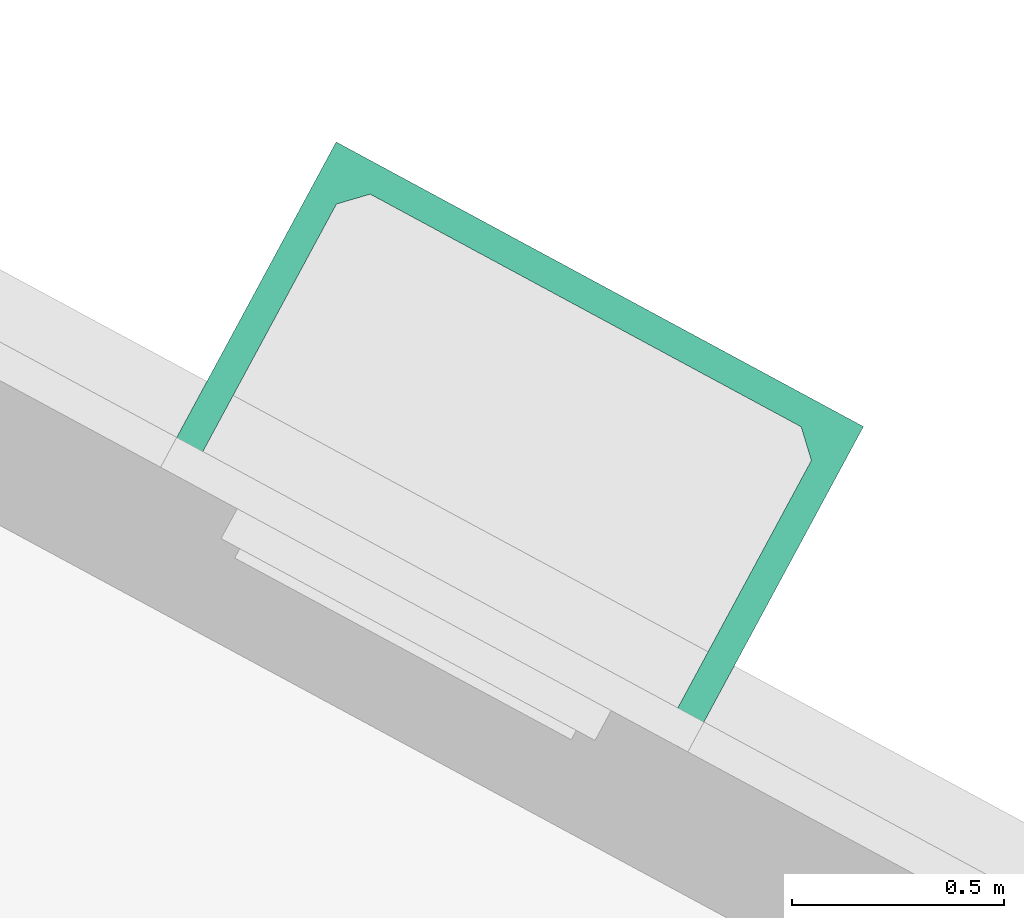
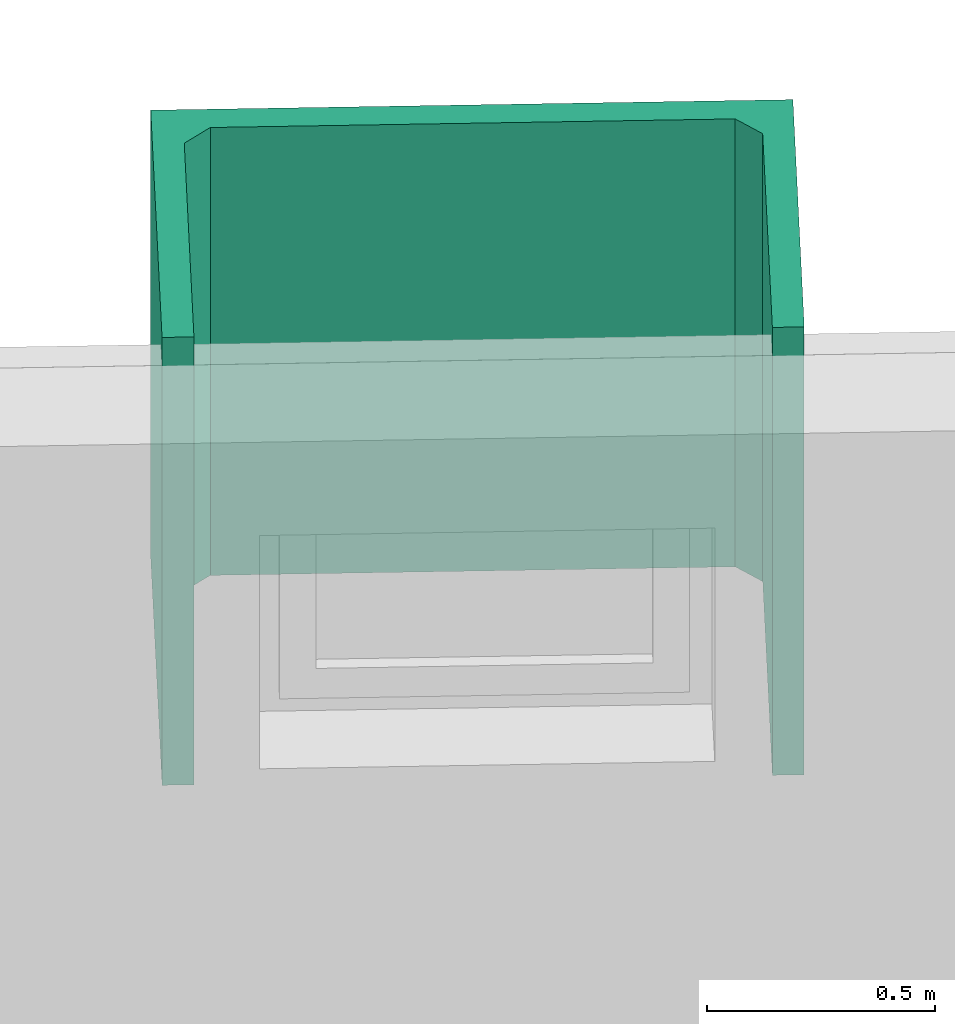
# One storey, part 8 of 8: 1 distribution chamber element.
"""IFC2X3 building model written with IfcOpenShell, lengths in metres."""

from ifc_helpers import new_model, entity, si_unit, converted_unit, derived_unit, money_unit, direction, frame, origin_with_axes, place, context, subcontext, project, spatial, polyline, outline, composite_profile, extrude, material, material_list, type_object, element, save


model = new_model("IFC2X3")

# Units and contexts
model_context = context("Model", 3, precision=1e-05, world=origin_with_axes(), true_north=direction((0.0, 1.0)))
body_context = subcontext(model_context, "Body", "Model", "MODEL_VIEW")
ifc_project = project(units=[si_unit("LENGTHUNIT", "METRE"), si_unit("AREAUNIT", "SQUARE_METRE"), si_unit("VOLUMEUNIT", "CUBIC_METRE"), converted_unit("PLANEANGLEUNIT", "DEGREE", entity("IfcPlaneAngleMeasure", 0.0174532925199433), si_unit("PLANEANGLEUNIT", "RADIAN"), dimensions=[0, 0, 0, 0, 0, 0, 0]), money_unit("EUR"), converted_unit("TIMEUNIT", "Year", entity("IfcTimeMeasure", 31556926.0), si_unit("TIMEUNIT", "SECOND"), dimensions=[0, 0, 1, 0, 0, 0, 0]), si_unit("MASSUNIT", "GRAM", prefix="KILO"), si_unit("THERMODYNAMICTEMPERATUREUNIT", "DEGREE_CELSIUS"), si_unit("LUMINOUSINTENSITYUNIT", "LUMEN"), si_unit("ENERGYUNIT", "JOULE", prefix="MEGA"), derived_unit("THERMALCONDUCTANCEUNIT", [(si_unit("POWERUNIT", "WATT"), 1), (si_unit("LENGTHUNIT", "METRE"), -1), (si_unit("THERMODYNAMICTEMPERATUREUNIT", "KELVIN"), -1)]), derived_unit("SPECIFICHEATCAPACITYUNIT", [(si_unit("ENERGYUNIT", "JOULE"), 1), (si_unit("MASSUNIT", "GRAM", prefix="KILO"), -1), (si_unit("THERMODYNAMICTEMPERATUREUNIT", "KELVIN"), -1)]), derived_unit("MASSDENSITYUNIT", [(si_unit("MASSUNIT", "GRAM", prefix="KILO"), 1), (si_unit("VOLUMEUNIT", "CUBIC_METRE"), -1)])], contexts=[model_context])

# Site, building, storey
site_placement = place(None, frame((-3.949935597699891, 1.740105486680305, 0.0), z_axis=(0.0, 0.0, 1.0), x_axis=(0.8799804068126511, -0.475009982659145, 0.0)))
site = spatial("IfcSite", under=ifc_project, at=site_placement, Name="Gelände", CompositionType="ELEMENT")
building_placement = place(site_placement, origin_with_axes())
building = spatial("IfcBuilding", under=site, at=building_placement, Name="Gebäude", CompositionType="ELEMENT")
storey_placement = place(building_placement, frame((0.0, 0.0, -2.98), z_axis=(0.0, 0.0, 1.0), x_axis=(1.0, 0.0, 0.0)))
storey = spatial("IfcBuildingStorey", under=building, at=storey_placement, Name="Kellergeschoss", CompositionType="ELEMENT", Elevation=-2.98)

# Distribution chamber element
ifc_material_1 = material(Name="_SIWH - Dämmung, hart Mineralwolle")
ifc_material_2 = material(Name="_SIWH - Beton, Stahlbeton Fertigteil")
ifc_material_list = material_list([ifc_material_1, ifc_material_1, ifc_material_2])
distribution_chamber_element_type = type_object("IfcDistributionChamberElementType", Name="_SIWH - Lichtschacht 1270x800 870 x 1410", PredefinedType="NOTDEFINED")
distribution_chamber_element_placement = place(storey_placement, frame((14.52247696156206, 19.20031485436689, 1.675), z_axis=(0.0, 0.0, 1.0), x_axis=(0.0, 1.0, 0.0)))
element("IfcDistributionChamberElement", 1, at=distribution_chamber_element_placement, inside=storey, type_object=distribution_chamber_element_type, material=ifc_material_list, Name="Stütze-004", context=body_context, shape_type="SweptSolid", body=[
    extrude(composite_profile([outline(polyline([(0.0, 1.41), (0.0, 1.34), (0.08000000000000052, 1.34), (0.08000000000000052, 1.41), (0.0, 1.41)])), outline(polyline([(0.0, 0.07000000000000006), (0.0, 0.0), (0.08000000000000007, 0.0), (0.08000000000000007, 0.07000000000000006), (0.0, 0.07000000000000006)])), outline(polyline([(0.7416479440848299, 0.07000000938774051), (0.07999998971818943, 0.0699999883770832), (0.07999998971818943, 0.0), (0.8699999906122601, 0.0), (0.8699999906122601, 1.41), (0.07999998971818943, 1.41), (0.07999998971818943, 1.339999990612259), (0.7416479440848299, 1.339999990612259), (0.7998915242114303, 1.281246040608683), (0.7998915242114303, 0.1287539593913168), (0.7416479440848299, 0.07000000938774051)]))]), origin_with_axes(), (0.0, 0.0, 1.0), 1.2),
])

save(model, "model.ifc")
